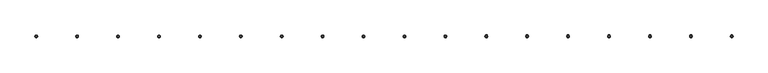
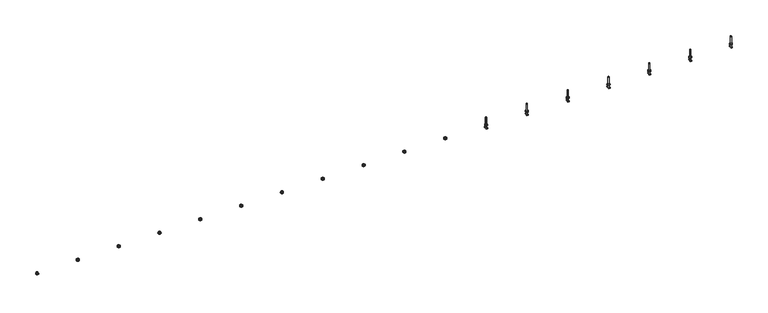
"""IFC4 building model written with IfcOpenShell, lengths in millimetres: fastener geometry, JTA-K JORDAHL® AnchorChannels : JTA-K L=6000 mm."""

from ifc_helpers import new_model, si_unit, point, frame, frame_2d, origin, place, context, project, spatial, polyline, circle_curve, trimmed, segment, composite_curve, outline, extrude, source, transform, mapped, element, save
from ifc_brep_helpers import plane_surface, cylinder_surface, advanced_brep


def fastener_4f74e423(model_context):
    return source(origin(), model_context, "Body", "SolidModel", [
        extrude(outline(polyline([(5617.1052632, 9.2376043), (5625.1052632, 4.6188022), (5625.1052632, -4.6188022), (5617.1052632, -9.2376043), (5609.1052632, -4.6188022), (5609.1052632, 4.6188022), (5617.1052632, 9.2376043)]), holes=[composite_curve([segment(trimmed(circle_curve(frame_2d((5617.1052632, 0.0)), 4.0), [point((5613.1052632, 0.0))], [point((5621.1052632, 0.0))], True, "CARTESIAN"), True, "CONTINUOUS"), segment(trimmed(circle_curve(frame_2d((5617.1052632, 0.0)), 4.0), [point((5621.1052632, 0.0))], [point((5613.1052632, 0.0))], True, "CARTESIAN"), True, "CONTINUOUS")], self_intersect=False)]), frame((0.0, 0.0, 17.0), z_axis=(0.0, 0.0, 1.0), x_axis=(1.0, 0.0, 0.0)), (0.0, 0.0, 1.0), 8.4),
        extrude(outline(composite_curve([segment(trimmed(circle_curve(frame_2d((5617.1052632, 0.0)), 10.0), [point((5607.1052632, 0.0))], [point((5627.1052632, 0.0))], False, "CARTESIAN"), True, "CONTINUOUS"), segment(trimmed(circle_curve(frame_2d((5617.1052632, 0.0)), 10.0), [point((5627.1052632, 0.0))], [point((5607.1052632, 0.0))], False, "CARTESIAN"), True, "CONTINUOUS")], self_intersect=False), holes=[composite_curve([segment(trimmed(circle_curve(frame_2d((5617.1052632, 0.0)), 5.25), [point((5611.8552632, 0.0))], [point((5622.3552632, 0.0))], True, "CARTESIAN"), True, "CONTINUOUS"), segment(trimmed(circle_curve(frame_2d((5617.1052632, 0.0)), 5.25), [point((5622.3552632, 0.0))], [point((5611.8552632, 0.0))], True, "CARTESIAN"), True, "CONTINUOUS")], self_intersect=False)]), frame((0.0, 0.0, 15.0), z_axis=(0.0, 0.0, 1.0), x_axis=(1.0, 0.0, 0.0)), (0.0, 0.0, 1.0), 2.0),
        extrude(outline(polyline([(5309.2105263, 9.2376043), (5317.2105263, 4.6188022), (5317.2105263, -4.6188022), (5309.2105263, -9.2376043), (5301.2105263, -4.6188022), (5301.2105263, 4.6188022), (5309.2105263, 9.2376043)]), holes=[composite_curve([segment(trimmed(circle_curve(frame_2d((5309.2105263, 0.0)), 4.0), [point((5305.2105263, 0.0))], [point((5313.2105263, 0.0))], True, "CARTESIAN"), True, "CONTINUOUS"), segment(trimmed(circle_curve(frame_2d((5309.2105263, 0.0)), 4.0), [point((5313.2105263, 0.0))], [point((5305.2105263, 0.0))], True, "CARTESIAN"), True, "CONTINUOUS")], self_intersect=False)]), frame((0.0, 0.0, 17.0), z_axis=(0.0, 0.0, 1.0), x_axis=(1.0, 0.0, 0.0)), (0.0, 0.0, 1.0), 8.4),
        extrude(outline(composite_curve([segment(trimmed(circle_curve(frame_2d((5309.2105263, 0.0)), 10.0), [point((5299.2105263, 0.0))], [point((5319.2105263, 0.0))], False, "CARTESIAN"), True, "CONTINUOUS"), segment(trimmed(circle_curve(frame_2d((5309.2105263, 0.0)), 10.0), [point((5319.2105263, 0.0))], [point((5299.2105263, 0.0))], False, "CARTESIAN"), True, "CONTINUOUS")], self_intersect=False), holes=[composite_curve([segment(trimmed(circle_curve(frame_2d((5309.2105263, 0.0)), 5.25), [point((5303.9605263, 0.0))], [point((5314.4605263, 0.0))], True, "CARTESIAN"), True, "CONTINUOUS"), segment(trimmed(circle_curve(frame_2d((5309.2105263, 0.0)), 5.25), [point((5314.4605263, 0.0))], [point((5303.9605263, 0.0))], True, "CARTESIAN"), True, "CONTINUOUS")], self_intersect=False)]), frame((0.0, 0.0, 15.0), z_axis=(0.0, 0.0, 1.0), x_axis=(1.0, 0.0, 0.0)), (0.0, 0.0, 1.0), 2.0),
        extrude(outline(polyline([(5001.3157895, 9.2376043), (5009.3157895, 4.6188022), (5009.3157895, -4.6188022), (5001.3157895, -9.2376043), (4993.3157895, -4.6188022), (4993.3157895, 4.6188022), (5001.3157895, 9.2376043)]), holes=[composite_curve([segment(trimmed(circle_curve(frame_2d((5001.3157895, 0.0)), 4.0), [point((4997.3157895, 0.0))], [point((5005.3157895, 0.0))], True, "CARTESIAN"), True, "CONTINUOUS"), segment(trimmed(circle_curve(frame_2d((5001.3157895, 0.0)), 4.0), [point((5005.3157895, 0.0))], [point((4997.3157895, 0.0))], True, "CARTESIAN"), True, "CONTINUOUS")], self_intersect=False)]), frame((0.0, 0.0, 17.0), z_axis=(0.0, 0.0, 1.0), x_axis=(1.0, 0.0, 0.0)), (0.0, 0.0, 1.0), 8.4),
        extrude(outline(composite_curve([segment(trimmed(circle_curve(frame_2d((5001.3157895, 0.0)), 10.0), [point((4991.3157895, 0.0))], [point((5011.3157895, 0.0))], False, "CARTESIAN"), True, "CONTINUOUS"), segment(trimmed(circle_curve(frame_2d((5001.3157895, 0.0)), 10.0), [point((5011.3157895, 0.0))], [point((4991.3157895, 0.0))], False, "CARTESIAN"), True, "CONTINUOUS")], self_intersect=False), holes=[composite_curve([segment(trimmed(circle_curve(frame_2d((5001.3157895, 0.0)), 5.25), [point((4996.0657895, 0.0))], [point((5006.5657895, 0.0))], True, "CARTESIAN"), True, "CONTINUOUS"), segment(trimmed(circle_curve(frame_2d((5001.3157895, 0.0)), 5.25), [point((5006.5657895, 0.0))], [point((4996.0657895, 0.0))], True, "CARTESIAN"), True, "CONTINUOUS")], self_intersect=False)]), frame((0.0, 0.0, 15.0), z_axis=(0.0, 0.0, 1.0), x_axis=(1.0, 0.0, 0.0)), (0.0, 0.0, 1.0), 2.0),
        extrude(outline(polyline([(4693.4210526, 9.2376043), (4701.4210526, 4.6188022), (4701.4210526, -4.6188022), (4693.4210526, -9.2376043), (4685.4210526, -4.6188022), (4685.4210526, 4.6188022), (4693.4210526, 9.2376043)]), holes=[composite_curve([segment(trimmed(circle_curve(frame_2d((4693.4210526, 0.0)), 4.0), [point((4689.4210526, 0.0))], [point((4697.4210526, 0.0))], True, "CARTESIAN"), True, "CONTINUOUS"), segment(trimmed(circle_curve(frame_2d((4693.4210526, 0.0)), 4.0), [point((4697.4210526, 0.0))], [point((4689.4210526, 0.0))], True, "CARTESIAN"), True, "CONTINUOUS")], self_intersect=False)]), frame((0.0, 0.0, 17.0), z_axis=(0.0, 0.0, 1.0), x_axis=(1.0, 0.0, 0.0)), (0.0, 0.0, 1.0), 8.4),
        extrude(outline(composite_curve([segment(trimmed(circle_curve(frame_2d((4693.4210526, 0.0)), 10.0), [point((4683.4210526, 0.0))], [point((4703.4210526, 0.0))], False, "CARTESIAN"), True, "CONTINUOUS"), segment(trimmed(circle_curve(frame_2d((4693.4210526, 0.0)), 10.0), [point((4703.4210526, 0.0))], [point((4683.4210526, 0.0))], False, "CARTESIAN"), True, "CONTINUOUS")], self_intersect=False), holes=[composite_curve([segment(trimmed(circle_curve(frame_2d((4693.4210526, 0.0)), 5.25), [point((4688.1710526, 0.0))], [point((4698.6710526, 0.0))], True, "CARTESIAN"), True, "CONTINUOUS"), segment(trimmed(circle_curve(frame_2d((4693.4210526, 0.0)), 5.25), [point((4698.6710526, 0.0))], [point((4688.1710526, 0.0))], True, "CARTESIAN"), True, "CONTINUOUS")], self_intersect=False)]), frame((0.0, 0.0, 15.0), z_axis=(0.0, 0.0, 1.0), x_axis=(1.0, 0.0, 0.0)), (0.0, 0.0, 1.0), 2.0),
        extrude(outline(polyline([(4385.5263158, 9.2376043), (4393.5263158, 4.6188022), (4393.5263158, -4.6188022), (4385.5263158, -9.2376043), (4377.5263158, -4.6188022), (4377.5263158, 4.6188022), (4385.5263158, 9.2376043)]), holes=[composite_curve([segment(trimmed(circle_curve(frame_2d((4385.5263158, 0.0)), 4.0), [point((4381.5263158, 0.0))], [point((4389.5263158, 0.0))], True, "CARTESIAN"), True, "CONTINUOUS"), segment(trimmed(circle_curve(frame_2d((4385.5263158, 0.0)), 4.0), [point((4389.5263158, 0.0))], [point((4381.5263158, 0.0))], True, "CARTESIAN"), True, "CONTINUOUS")], self_intersect=False)]), frame((0.0, 0.0, 17.0), z_axis=(0.0, 0.0, 1.0), x_axis=(1.0, 0.0, 0.0)), (0.0, 0.0, 1.0), 8.4),
        extrude(outline(composite_curve([segment(trimmed(circle_curve(frame_2d((4385.5263158, 0.0)), 10.0), [point((4375.5263158, 0.0))], [point((4395.5263158, 0.0))], False, "CARTESIAN"), True, "CONTINUOUS"), segment(trimmed(circle_curve(frame_2d((4385.5263158, 0.0)), 10.0), [point((4395.5263158, 0.0))], [point((4375.5263158, 0.0))], False, "CARTESIAN"), True, "CONTINUOUS")], self_intersect=False), holes=[composite_curve([segment(trimmed(circle_curve(frame_2d((4385.5263158, 0.0)), 5.25), [point((4380.2763158, 0.0))], [point((4390.7763158, 0.0))], True, "CARTESIAN"), True, "CONTINUOUS"), segment(trimmed(circle_curve(frame_2d((4385.5263158, 0.0)), 5.25), [point((4390.7763158, 0.0))], [point((4380.2763158, 0.0))], True, "CARTESIAN"), True, "CONTINUOUS")], self_intersect=False)]), frame((0.0, 0.0, 15.0), z_axis=(0.0, 0.0, 1.0), x_axis=(1.0, 0.0, 0.0)), (0.0, 0.0, 1.0), 2.0),
        extrude(outline(polyline([(4077.6315789, 9.2376043), (4085.6315789, 4.6188022), (4085.6315789, -4.6188022), (4077.6315789, -9.2376043), (4069.6315789, -4.6188022), (4069.6315789, 4.6188022), (4077.6315789, 9.2376043)]), holes=[composite_curve([segment(trimmed(circle_curve(frame_2d((4077.6315789, 0.0)), 4.0), [point((4073.6315789, 0.0))], [point((4081.6315789, 0.0))], True, "CARTESIAN"), True, "CONTINUOUS"), segment(trimmed(circle_curve(frame_2d((4077.6315789, 0.0)), 4.0), [point((4081.6315789, 0.0))], [point((4073.6315789, 0.0))], True, "CARTESIAN"), True, "CONTINUOUS")], self_intersect=False)]), frame((0.0, 0.0, 17.0), z_axis=(0.0, 0.0, 1.0), x_axis=(1.0, 0.0, 0.0)), (0.0, 0.0, 1.0), 8.4),
        extrude(outline(composite_curve([segment(trimmed(circle_curve(frame_2d((4077.6315789, 0.0)), 10.0), [point((4067.6315789, 0.0))], [point((4087.6315789, 0.0))], False, "CARTESIAN"), True, "CONTINUOUS"), segment(trimmed(circle_curve(frame_2d((4077.6315789, 0.0)), 10.0), [point((4087.6315789, 0.0))], [point((4067.6315789, 0.0))], False, "CARTESIAN"), True, "CONTINUOUS")], self_intersect=False), holes=[composite_curve([segment(trimmed(circle_curve(frame_2d((4077.6315789, 0.0)), 5.25), [point((4072.3815789, 0.0))], [point((4082.8815789, 0.0))], True, "CARTESIAN"), True, "CONTINUOUS"), segment(trimmed(circle_curve(frame_2d((4077.6315789, 0.0)), 5.25), [point((4082.8815789, 0.0))], [point((4072.3815789, 0.0))], True, "CARTESIAN"), True, "CONTINUOUS")], self_intersect=False)]), frame((0.0, 0.0, 15.0), z_axis=(0.0, 0.0, 1.0), x_axis=(1.0, 0.0, 0.0)), (0.0, 0.0, 1.0), 2.0),
        extrude(outline(polyline([(3769.7368421, 9.2376043), (3777.7368421, 4.6188022), (3777.7368421, -4.6188022), (3769.7368421, -9.2376043), (3761.7368421, -4.6188022), (3761.7368421, 4.6188022), (3769.7368421, 9.2376043)]), holes=[composite_curve([segment(trimmed(circle_curve(frame_2d((3769.7368421, 0.0)), 4.0), [point((3765.7368421, 0.0))], [point((3773.7368421, 0.0))], True, "CARTESIAN"), True, "CONTINUOUS"), segment(trimmed(circle_curve(frame_2d((3769.7368421, 0.0)), 4.0), [point((3773.7368421, 0.0))], [point((3765.7368421, 0.0))], True, "CARTESIAN"), True, "CONTINUOUS")], self_intersect=False)]), frame((0.0, 0.0, 17.0), z_axis=(0.0, 0.0, 1.0), x_axis=(1.0, 0.0, 0.0)), (0.0, 0.0, 1.0), 8.4),
        extrude(outline(composite_curve([segment(trimmed(circle_curve(frame_2d((3769.7368421, 0.0)), 10.0), [point((3759.7368421, 0.0))], [point((3779.7368421, 0.0))], False, "CARTESIAN"), True, "CONTINUOUS"), segment(trimmed(circle_curve(frame_2d((3769.7368421, 0.0)), 10.0), [point((3779.7368421, 0.0))], [point((3759.7368421, 0.0))], False, "CARTESIAN"), True, "CONTINUOUS")], self_intersect=False), holes=[composite_curve([segment(trimmed(circle_curve(frame_2d((3769.7368421, 0.0)), 5.25), [point((3764.4868421, 0.0))], [point((3774.9868421, 0.0))], True, "CARTESIAN"), True, "CONTINUOUS"), segment(trimmed(circle_curve(frame_2d((3769.7368421, 0.0)), 5.25), [point((3774.9868421, 0.0))], [point((3764.4868421, 0.0))], True, "CARTESIAN"), True, "CONTINUOUS")], self_intersect=False)]), frame((0.0, 0.0, 15.0), z_axis=(0.0, 0.0, 1.0), x_axis=(1.0, 0.0, 0.0)), (0.0, 0.0, 1.0), 2.0),
        extrude(outline(polyline([(3461.8421053, 9.2376043), (3469.8421053, 4.6188022), (3469.8421053, -4.6188022), (3461.8421053, -9.2376043), (3453.8421053, -4.6188022), (3453.8421053, 4.6188022), (3461.8421053, 9.2376043)]), holes=[composite_curve([segment(trimmed(circle_curve(frame_2d((3461.8421053, 0.0)), 4.0), [point((3457.8421053, 0.0))], [point((3465.8421053, 0.0))], True, "CARTESIAN"), True, "CONTINUOUS"), segment(trimmed(circle_curve(frame_2d((3461.8421053, 0.0)), 4.0), [point((3465.8421053, 0.0))], [point((3457.8421053, 0.0))], True, "CARTESIAN"), True, "CONTINUOUS")], self_intersect=False)]), frame((0.0, 0.0, 17.0), z_axis=(0.0, 0.0, 1.0), x_axis=(1.0, 0.0, 0.0)), (0.0, 0.0, 1.0), 8.4),
        extrude(outline(composite_curve([segment(trimmed(circle_curve(frame_2d((3461.8421053, 0.0)), 10.0), [point((3451.8421053, 0.0))], [point((3471.8421053, 0.0))], False, "CARTESIAN"), True, "CONTINUOUS"), segment(trimmed(circle_curve(frame_2d((3461.8421053, 0.0)), 10.0), [point((3471.8421053, 0.0))], [point((3451.8421053, 0.0))], False, "CARTESIAN"), True, "CONTINUOUS")], self_intersect=False), holes=[composite_curve([segment(trimmed(circle_curve(frame_2d((3461.8421053, 0.0)), 5.25), [point((3456.5921053, 0.0))], [point((3467.0921053, 0.0))], True, "CARTESIAN"), True, "CONTINUOUS"), segment(trimmed(circle_curve(frame_2d((3461.8421053, 0.0)), 5.25), [point((3467.0921053, 0.0))], [point((3456.5921053, 0.0))], True, "CARTESIAN"), True, "CONTINUOUS")], self_intersect=False)]), frame((0.0, 0.0, 15.0), z_axis=(0.0, 0.0, 1.0), x_axis=(1.0, 0.0, 0.0)), (0.0, 0.0, 1.0), 2.0),
        extrude(outline(polyline([(3153.9473684, 9.2376043), (3161.9473684, 4.6188022), (3161.9473684, -4.6188022), (3153.9473684, -9.2376043), (3145.9473684, -4.6188022), (3145.9473684, 4.6188022), (3153.9473684, 9.2376043)]), holes=[composite_curve([segment(trimmed(circle_curve(frame_2d((3153.9473684, 0.0)), 4.0), [point((3149.9473684, 0.0))], [point((3157.9473684, 0.0))], True, "CARTESIAN"), True, "CONTINUOUS"), segment(trimmed(circle_curve(frame_2d((3153.9473684, 0.0)), 4.0), [point((3157.9473684, 0.0))], [point((3149.9473684, 0.0))], True, "CARTESIAN"), True, "CONTINUOUS")], self_intersect=False)]), frame((0.0, 0.0, 17.0), z_axis=(0.0, 0.0, 1.0), x_axis=(1.0, 0.0, 0.0)), (0.0, 0.0, 1.0), 8.4),
        extrude(outline(composite_curve([segment(trimmed(circle_curve(frame_2d((3153.9473684, 0.0)), 10.0), [point((3143.9473684, 0.0))], [point((3163.9473684, 0.0))], False, "CARTESIAN"), True, "CONTINUOUS"), segment(trimmed(circle_curve(frame_2d((3153.9473684, 0.0)), 10.0), [point((3163.9473684, 0.0))], [point((3143.9473684, 0.0))], False, "CARTESIAN"), True, "CONTINUOUS")], self_intersect=False), holes=[composite_curve([segment(trimmed(circle_curve(frame_2d((3153.9473684, 0.0)), 5.25), [point((3148.6973684, 0.0))], [point((3159.1973684, 0.0))], True, "CARTESIAN"), True, "CONTINUOUS"), segment(trimmed(circle_curve(frame_2d((3153.9473684, 0.0)), 5.25), [point((3159.1973684, 0.0))], [point((3148.6973684, 0.0))], True, "CARTESIAN"), True, "CONTINUOUS")], self_intersect=False)]), frame((0.0, 0.0, 15.0), z_axis=(0.0, 0.0, 1.0), x_axis=(1.0, 0.0, 0.0)), (0.0, 0.0, 1.0), 2.0),
        extrude(outline(polyline([(2846.0526316, 9.2376043), (2854.0526316, 4.6188022), (2854.0526316, -4.6188022), (2846.0526316, -9.2376043), (2838.0526316, -4.6188022), (2838.0526316, 4.6188022), (2846.0526316, 9.2376043)]), holes=[composite_curve([segment(trimmed(circle_curve(frame_2d((2846.0526316, 0.0)), 4.0), [point((2842.0526316, 0.0))], [point((2850.0526316, 0.0))], True, "CARTESIAN"), True, "CONTINUOUS"), segment(trimmed(circle_curve(frame_2d((2846.0526316, 0.0)), 4.0), [point((2850.0526316, 0.0))], [point((2842.0526316, 0.0))], True, "CARTESIAN"), True, "CONTINUOUS")], self_intersect=False)]), frame((0.0, 0.0, 17.0), z_axis=(0.0, 0.0, 1.0), x_axis=(1.0, 0.0, 0.0)), (0.0, 0.0, 1.0), 8.4),
        extrude(outline(composite_curve([segment(trimmed(circle_curve(frame_2d((2846.0526316, 0.0)), 10.0), [point((2836.0526316, 0.0))], [point((2856.0526316, 0.0))], False, "CARTESIAN"), True, "CONTINUOUS"), segment(trimmed(circle_curve(frame_2d((2846.0526316, 0.0)), 10.0), [point((2856.0526316, 0.0))], [point((2836.0526316, 0.0))], False, "CARTESIAN"), True, "CONTINUOUS")], self_intersect=False), holes=[composite_curve([segment(trimmed(circle_curve(frame_2d((2846.0526316, 0.0)), 5.25), [point((2840.8026316, 0.0))], [point((2851.3026316, 0.0))], True, "CARTESIAN"), True, "CONTINUOUS"), segment(trimmed(circle_curve(frame_2d((2846.0526316, 0.0)), 5.25), [point((2851.3026316, 0.0))], [point((2840.8026316, 0.0))], True, "CARTESIAN"), True, "CONTINUOUS")], self_intersect=False)]), frame((0.0, 0.0, 15.0), z_axis=(0.0, 0.0, 1.0), x_axis=(1.0, 0.0, 0.0)), (0.0, 0.0, 1.0), 2.0),
        extrude(outline(polyline([(2538.1578947, 9.2376043), (2546.1578947, 4.6188022), (2546.1578947, -4.6188022), (2538.1578947, -9.2376043), (2530.1578947, -4.6188022), (2530.1578947, 4.6188022), (2538.1578947, 9.2376043)]), holes=[composite_curve([segment(trimmed(circle_curve(frame_2d((2538.1578947, 0.0)), 4.0), [point((2534.1578947, 0.0))], [point((2542.1578947, 0.0))], True, "CARTESIAN"), True, "CONTINUOUS"), segment(trimmed(circle_curve(frame_2d((2538.1578947, 0.0)), 4.0), [point((2542.1578947, 0.0))], [point((2534.1578947, 0.0))], True, "CARTESIAN"), True, "CONTINUOUS")], self_intersect=False)]), frame((0.0, 0.0, 17.0), z_axis=(0.0, 0.0, 1.0), x_axis=(1.0, 0.0, 0.0)), (0.0, 0.0, 1.0), 8.4),
        extrude(outline(composite_curve([segment(trimmed(circle_curve(frame_2d((2538.1578947, 0.0)), 10.0), [point((2528.1578947, 0.0))], [point((2548.1578947, 0.0))], False, "CARTESIAN"), True, "CONTINUOUS"), segment(trimmed(circle_curve(frame_2d((2538.1578947, 0.0)), 10.0), [point((2548.1578947, 0.0))], [point((2528.1578947, 0.0))], False, "CARTESIAN"), True, "CONTINUOUS")], self_intersect=False), holes=[composite_curve([segment(trimmed(circle_curve(frame_2d((2538.1578947, 0.0)), 5.25), [point((2532.9078947, 0.0))], [point((2543.4078947, 0.0))], True, "CARTESIAN"), True, "CONTINUOUS"), segment(trimmed(circle_curve(frame_2d((2538.1578947, 0.0)), 5.25), [point((2543.4078947, 0.0))], [point((2532.9078947, 0.0))], True, "CARTESIAN"), True, "CONTINUOUS")], self_intersect=False)]), frame((0.0, 0.0, 15.0), z_axis=(0.0, 0.0, 1.0), x_axis=(1.0, 0.0, 0.0)), (0.0, 0.0, 1.0), 2.0),
        extrude(outline(polyline([(2230.2631579, 9.2376043), (2238.2631579, 4.6188022), (2238.2631579, -4.6188022), (2230.2631579, -9.2376043), (2222.2631579, -4.6188022), (2222.2631579, 4.6188022), (2230.2631579, 9.2376043)]), holes=[composite_curve([segment(trimmed(circle_curve(frame_2d((2230.2631579, 0.0)), 4.0), [point((2226.2631579, 0.0))], [point((2234.2631579, 0.0))], True, "CARTESIAN"), True, "CONTINUOUS"), segment(trimmed(circle_curve(frame_2d((2230.2631579, 0.0)), 4.0), [point((2234.2631579, 0.0))], [point((2226.2631579, 0.0))], True, "CARTESIAN"), True, "CONTINUOUS")], self_intersect=False)]), frame((0.0, 0.0, 17.0), z_axis=(0.0, 0.0, 1.0), x_axis=(1.0, 0.0, 0.0)), (0.0, 0.0, 1.0), 8.4),
        extrude(outline(composite_curve([segment(trimmed(circle_curve(frame_2d((2230.2631579, 0.0)), 10.0), [point((2220.2631579, 0.0))], [point((2240.2631579, 0.0))], False, "CARTESIAN"), True, "CONTINUOUS"), segment(trimmed(circle_curve(frame_2d((2230.2631579, 0.0)), 10.0), [point((2240.2631579, 0.0))], [point((2220.2631579, 0.0))], False, "CARTESIAN"), True, "CONTINUOUS")], self_intersect=False), holes=[composite_curve([segment(trimmed(circle_curve(frame_2d((2230.2631579, 0.0)), 5.25), [point((2225.0131579, 0.0))], [point((2235.5131579, 0.0))], True, "CARTESIAN"), True, "CONTINUOUS"), segment(trimmed(circle_curve(frame_2d((2230.2631579, 0.0)), 5.25), [point((2235.5131579, 0.0))], [point((2225.0131579, 0.0))], True, "CARTESIAN"), True, "CONTINUOUS")], self_intersect=False)]), frame((0.0, 0.0, 15.0), z_axis=(0.0, 0.0, 1.0), x_axis=(1.0, 0.0, 0.0)), (0.0, 0.0, 1.0), 2.0),
        extrude(outline(polyline([(1922.3684211, 9.2376043), (1930.3684211, 4.6188022), (1930.3684211, -4.6188022), (1922.3684211, -9.2376043), (1914.3684211, -4.6188022), (1914.3684211, 4.6188022), (1922.3684211, 9.2376043)]), holes=[composite_curve([segment(trimmed(circle_curve(frame_2d((1922.3684211, 0.0)), 4.0), [point((1918.3684211, 0.0))], [point((1926.3684211, 0.0))], True, "CARTESIAN"), True, "CONTINUOUS"), segment(trimmed(circle_curve(frame_2d((1922.3684211, 0.0)), 4.0), [point((1926.3684211, 0.0))], [point((1918.3684211, 0.0))], True, "CARTESIAN"), True, "CONTINUOUS")], self_intersect=False)]), frame((0.0, 0.0, 17.0), z_axis=(0.0, 0.0, 1.0), x_axis=(1.0, 0.0, 0.0)), (0.0, 0.0, 1.0), 8.4),
        extrude(outline(composite_curve([segment(trimmed(circle_curve(frame_2d((1922.3684211, 0.0)), 10.0), [point((1912.3684211, 0.0))], [point((1932.3684211, 0.0))], False, "CARTESIAN"), True, "CONTINUOUS"), segment(trimmed(circle_curve(frame_2d((1922.3684211, 0.0)), 10.0), [point((1932.3684211, 0.0))], [point((1912.3684211, 0.0))], False, "CARTESIAN"), True, "CONTINUOUS")], self_intersect=False), holes=[composite_curve([segment(trimmed(circle_curve(frame_2d((1922.3684211, 0.0)), 5.25), [point((1917.1184211, 0.0))], [point((1927.6184211, 0.0))], True, "CARTESIAN"), True, "CONTINUOUS"), segment(trimmed(circle_curve(frame_2d((1922.3684211, 0.0)), 5.25), [point((1927.6184211, 0.0))], [point((1917.1184211, 0.0))], True, "CARTESIAN"), True, "CONTINUOUS")], self_intersect=False)]), frame((0.0, 0.0, 15.0), z_axis=(0.0, 0.0, 1.0), x_axis=(1.0, 0.0, 0.0)), (0.0, 0.0, 1.0), 2.0),
        extrude(outline(polyline([(1614.4736842, 9.2376043), (1622.4736842, 4.6188022), (1622.4736842, -4.6188022), (1614.4736842, -9.2376043), (1606.4736842, -4.6188022), (1606.4736842, 4.6188022), (1614.4736842, 9.2376043)]), holes=[composite_curve([segment(trimmed(circle_curve(frame_2d((1614.4736842, 0.0)), 4.0), [point((1610.4736842, 0.0))], [point((1618.4736842, 0.0))], True, "CARTESIAN"), True, "CONTINUOUS"), segment(trimmed(circle_curve(frame_2d((1614.4736842, 0.0)), 4.0), [point((1618.4736842, 0.0))], [point((1610.4736842, 0.0))], True, "CARTESIAN"), True, "CONTINUOUS")], self_intersect=False)]), frame((0.0, 0.0, 17.0), z_axis=(0.0, 0.0, 1.0), x_axis=(1.0, 0.0, 0.0)), (0.0, 0.0, 1.0), 8.4),
        extrude(outline(composite_curve([segment(trimmed(circle_curve(frame_2d((1614.4736842, 0.0)), 10.0), [point((1604.4736842, 0.0))], [point((1624.4736842, 0.0))], False, "CARTESIAN"), True, "CONTINUOUS"), segment(trimmed(circle_curve(frame_2d((1614.4736842, 0.0)), 10.0), [point((1624.4736842, 0.0))], [point((1604.4736842, 0.0))], False, "CARTESIAN"), True, "CONTINUOUS")], self_intersect=False), holes=[composite_curve([segment(trimmed(circle_curve(frame_2d((1614.4736842, 0.0)), 5.25), [point((1609.2236842, 0.0))], [point((1619.7236842, 0.0))], True, "CARTESIAN"), True, "CONTINUOUS"), segment(trimmed(circle_curve(frame_2d((1614.4736842, 0.0)), 5.25), [point((1619.7236842, 0.0))], [point((1609.2236842, 0.0))], True, "CARTESIAN"), True, "CONTINUOUS")], self_intersect=False)]), frame((0.0, 0.0, 15.0), z_axis=(0.0, 0.0, 1.0), x_axis=(1.0, 0.0, 0.0)), (0.0, 0.0, 1.0), 2.0),
        extrude(outline(polyline([(1306.5789474, 9.2376043), (1314.5789474, 4.6188022), (1314.5789474, -4.6188022), (1306.5789474, -9.2376043), (1298.5789474, -4.6188022), (1298.5789474, 4.6188022), (1306.5789474, 9.2376043)]), holes=[composite_curve([segment(trimmed(circle_curve(frame_2d((1306.5789474, 0.0)), 4.0), [point((1302.5789474, 0.0))], [point((1310.5789474, 0.0))], True, "CARTESIAN"), True, "CONTINUOUS"), segment(trimmed(circle_curve(frame_2d((1306.5789474, 0.0)), 4.0), [point((1310.5789474, 0.0))], [point((1302.5789474, 0.0))], True, "CARTESIAN"), True, "CONTINUOUS")], self_intersect=False)]), frame((0.0, 0.0, 17.0), z_axis=(0.0, 0.0, 1.0), x_axis=(1.0, 0.0, 0.0)), (0.0, 0.0, 1.0), 8.4),
        extrude(outline(composite_curve([segment(trimmed(circle_curve(frame_2d((1306.5789474, 0.0)), 10.0), [point((1296.5789474, 0.0))], [point((1316.5789474, 0.0))], False, "CARTESIAN"), True, "CONTINUOUS"), segment(trimmed(circle_curve(frame_2d((1306.5789474, 0.0)), 10.0), [point((1316.5789474, 0.0))], [point((1296.5789474, 0.0))], False, "CARTESIAN"), True, "CONTINUOUS")], self_intersect=False), holes=[composite_curve([segment(trimmed(circle_curve(frame_2d((1306.5789474, 0.0)), 5.25), [point((1301.3289474, 0.0))], [point((1311.8289474, 0.0))], True, "CARTESIAN"), True, "CONTINUOUS"), segment(trimmed(circle_curve(frame_2d((1306.5789474, 0.0)), 5.25), [point((1311.8289474, 0.0))], [point((1301.3289474, 0.0))], True, "CARTESIAN"), True, "CONTINUOUS")], self_intersect=False)]), frame((0.0, 0.0, 15.0), z_axis=(0.0, 0.0, 1.0), x_axis=(1.0, 0.0, 0.0)), (0.0, 0.0, 1.0), 2.0),
        extrude(outline(polyline([(998.6842105, 9.2376043), (1006.6842105, 4.6188022), (1006.6842105, -4.6188022), (998.6842105, -9.2376043), (990.6842105, -4.6188022), (990.6842105, 4.6188022), (998.6842105, 9.2376043)]), holes=[composite_curve([segment(trimmed(circle_curve(frame_2d((998.6842105, 0.0)), 4.0), [point((994.6842105, 0.0))], [point((1002.6842105, 0.0))], True, "CARTESIAN"), True, "CONTINUOUS"), segment(trimmed(circle_curve(frame_2d((998.6842105, 0.0)), 4.0), [point((1002.6842105, 0.0))], [point((994.6842105, 0.0))], True, "CARTESIAN"), True, "CONTINUOUS")], self_intersect=False)]), frame((0.0, 0.0, 17.0), z_axis=(0.0, 0.0, 1.0), x_axis=(1.0, 0.0, 0.0)), (0.0, 0.0, 1.0), 8.4),
        extrude(outline(composite_curve([segment(trimmed(circle_curve(frame_2d((998.6842105, 0.0)), 10.0), [point((988.6842105, 0.0))], [point((1008.6842105, 0.0))], False, "CARTESIAN"), True, "CONTINUOUS"), segment(trimmed(circle_curve(frame_2d((998.6842105, 0.0)), 10.0), [point((1008.6842105, 0.0))], [point((988.6842105, 0.0))], False, "CARTESIAN"), True, "CONTINUOUS")], self_intersect=False), holes=[composite_curve([segment(trimmed(circle_curve(frame_2d((998.6842105, 0.0)), 5.25), [point((993.4342105, 0.0))], [point((1003.9342105, 0.0))], True, "CARTESIAN"), True, "CONTINUOUS"), segment(trimmed(circle_curve(frame_2d((998.6842105, 0.0)), 5.25), [point((1003.9342105, 0.0))], [point((993.4342105, 0.0))], True, "CARTESIAN"), True, "CONTINUOUS")], self_intersect=False)]), frame((0.0, 0.0, 15.0), z_axis=(0.0, 0.0, 1.0), x_axis=(1.0, 0.0, 0.0)), (0.0, 0.0, 1.0), 2.0),
        extrude(outline(polyline([(690.7894737, 9.2376043), (698.7894737, 4.6188022), (698.7894737, -4.6188022), (690.7894737, -9.2376043), (682.7894737, -4.6188022), (682.7894737, 4.6188022), (690.7894737, 9.2376043)]), holes=[composite_curve([segment(trimmed(circle_curve(frame_2d((690.7894737, 0.0)), 4.0), [point((686.7894737, 0.0))], [point((694.7894737, 0.0))], True, "CARTESIAN"), True, "CONTINUOUS"), segment(trimmed(circle_curve(frame_2d((690.7894737, 0.0)), 4.0), [point((694.7894737, 0.0))], [point((686.7894737, 0.0))], True, "CARTESIAN"), True, "CONTINUOUS")], self_intersect=False)]), frame((0.0, 0.0, 17.0), z_axis=(0.0, 0.0, 1.0), x_axis=(1.0, 0.0, 0.0)), (0.0, 0.0, 1.0), 8.4),
        extrude(outline(composite_curve([segment(trimmed(circle_curve(frame_2d((690.7894737, 0.0)), 10.0), [point((680.7894737, 0.0))], [point((700.7894737, 0.0))], False, "CARTESIAN"), True, "CONTINUOUS"), segment(trimmed(circle_curve(frame_2d((690.7894737, 0.0)), 10.0), [point((700.7894737, 0.0))], [point((680.7894737, 0.0))], False, "CARTESIAN"), True, "CONTINUOUS")], self_intersect=False), holes=[composite_curve([segment(trimmed(circle_curve(frame_2d((690.7894737, 0.0)), 5.25), [point((685.5394737, 0.0))], [point((696.0394737, 0.0))], True, "CARTESIAN"), True, "CONTINUOUS"), segment(trimmed(circle_curve(frame_2d((690.7894737, 0.0)), 5.25), [point((696.0394737, 0.0))], [point((685.5394737, 0.0))], True, "CARTESIAN"), True, "CONTINUOUS")], self_intersect=False)]), frame((0.0, 0.0, 15.0), z_axis=(0.0, 0.0, 1.0), x_axis=(1.0, 0.0, 0.0)), (0.0, 0.0, 1.0), 2.0),
        extrude(outline(polyline([(382.8947368, 9.2376043), (390.8947368, 4.6188022), (390.8947368, -4.6188022), (382.8947368, -9.2376043), (374.8947368, -4.6188022), (374.8947368, 4.6188022), (382.8947368, 9.2376043)]), holes=[composite_curve([segment(trimmed(circle_curve(frame_2d((382.8947368, 0.0)), 4.0), [point((378.8947368, 0.0))], [point((386.8947368, 0.0))], True, "CARTESIAN"), True, "CONTINUOUS"), segment(trimmed(circle_curve(frame_2d((382.8947368, 0.0)), 4.0), [point((386.8947368, 0.0))], [point((378.8947368, 0.0))], True, "CARTESIAN"), True, "CONTINUOUS")], self_intersect=False)]), frame((0.0, 0.0, 17.0), z_axis=(0.0, 0.0, 1.0), x_axis=(1.0, 0.0, 0.0)), (0.0, 0.0, 1.0), 8.4),
        extrude(outline(composite_curve([segment(trimmed(circle_curve(frame_2d((382.8947368, 0.0)), 10.0), [point((372.8947368, 0.0))], [point((392.8947368, 0.0))], False, "CARTESIAN"), True, "CONTINUOUS"), segment(trimmed(circle_curve(frame_2d((382.8947368, 0.0)), 10.0), [point((392.8947368, 0.0))], [point((372.8947368, 0.0))], False, "CARTESIAN"), True, "CONTINUOUS")], self_intersect=False), holes=[composite_curve([segment(trimmed(circle_curve(frame_2d((382.8947368, 0.0)), 5.25), [point((377.6447368, 0.0))], [point((388.1447368, 0.0))], True, "CARTESIAN"), True, "CONTINUOUS"), segment(trimmed(circle_curve(frame_2d((382.8947368, 0.0)), 5.25), [point((388.1447368, 0.0))], [point((377.6447368, 0.0))], True, "CARTESIAN"), True, "CONTINUOUS")], self_intersect=False)]), frame((0.0, 0.0, 15.0), z_axis=(0.0, 0.0, 1.0), x_axis=(1.0, 0.0, 0.0)), (0.0, 0.0, 1.0), 2.0),
        advanced_brep(
        [(5622.6052632, 11.0, -2.3), (5622.6052632, -11.0, -2.3), (5622.6052632, -11.0, -8.3), (5622.6052632, 11.0, -8.3), (5611.6052632, 11.0, -2.3), (5611.6052632, 11.0, -8.3), (5611.6052632, -11.0, -8.3), (5611.6052632, -11.0, -2.3), (5621.1052632, 0.0, -2.3), (5613.1052632, 0.0, -2.3), (5613.1052632, 0.0, 77.7), (5621.1052632, 0.0, 77.7)],
        [
            (0, 1),
            (1, 2),
            (2, 3),
            (3, 0),
            (4, 5),
            (5, 6),
            (6, 7),
            (7, 4),
            (0, 4),
            (7, 1),
            (8, 9, circle_curve(frame((5617.1052632, 0.0, -2.3), z_axis=(0.0, 0.0, -1.0), x_axis=(1.0, 0.0, 0.0)), 4.0)),
            (9, 8, circle_curve(frame((5617.1052632, 0.0, -2.3), z_axis=(0.0, 0.0, -1.0), x_axis=(1.0, 0.0, 0.0)), 4.0)),
            (6, 2),
            (5, 3),
            (10, 11, circle_curve(frame((5617.1052632, 0.0, 77.7), z_axis=(0.0, 0.0, 1.0), x_axis=(1.0, 0.0, 0.0)), 4.0)),
            (11, 10, circle_curve(frame((5617.1052632, 0.0, 77.7), z_axis=(0.0, 0.0, 1.0), x_axis=(1.0, 0.0, 0.0)), 4.0)),
            (10, 9),
            (8, 11),
        ],
        [
            plane_surface(frame((5622.6052632, -11.0, -2.3), z_axis=(1.0, 0.0, 0.0), x_axis=(0.0, -1.0, 0.0))),
            plane_surface(frame((5611.6052632, -11.0, -2.3), z_axis=(-1.0, 0.0, 0.0), x_axis=(0.0, 1.0, 0.0))),
            plane_surface(frame((5622.6052632, 11.0, -2.3), z_axis=(0.0, 0.0, 1.0), x_axis=(-1.0, 0.0, 0.0))),
            plane_surface(frame((5622.6052632, -11.0, -2.3), z_axis=(0.0, -1.0, 0.0), x_axis=(-1.0, 0.0, 0.0))),
            plane_surface(frame((5622.6052632, -11.0, -8.3), z_axis=(0.0, 0.0, -1.0), x_axis=(-1.0, 0.0, 0.0))),
            plane_surface(frame((5622.6052632, 11.0, -8.3), z_axis=(0.0, 1.0, 0.0), x_axis=(-1.0, 0.0, 0.0))),
            plane_surface(frame((5621.1052632, 0.0, 77.7), z_axis=(0.0, 0.0, 1.0), x_axis=(0.0, 1.0, 0.0))),
            cylinder_surface(frame((5617.1052632, 0.0, -2.3), z_axis=(0.0, 0.0, 1.0), x_axis=(1.0, 0.0, 0.0)), 4.0),
        ],
        [
            (0, [[1, 2, 3, 4]]),
            (1, [[5, 6, 7, 8]]),
            (2, [[-1, 9, -8, 10], [11, 12]]),
            (3, [[-2, -10, -7, 13]]),
            (4, [[-3, -13, -6, 14]]),
            (5, [[-4, -14, -5, -9]]),
            (6, [[15, 16]]),
            (7, [[-15, 17, -11, 18]]),
            (7, [[-16, -18, -12, -17]]),
        ],
    ),
        advanced_brep(
        [(5314.7105263, 11.0, -2.3), (5314.7105263, -11.0, -2.3), (5314.7105263, -11.0, -8.3), (5314.7105263, 11.0, -8.3), (5303.7105263, 11.0, -2.3), (5303.7105263, 11.0, -8.3), (5303.7105263, -11.0, -8.3), (5303.7105263, -11.0, -2.3), (5313.2105263, 0.0, -2.3), (5305.2105263, 0.0, -2.3), (5305.2105263, 0.0, 77.7), (5313.2105263, 0.0, 77.7)],
        [
            (0, 1),
            (1, 2),
            (2, 3),
            (3, 0),
            (4, 5),
            (5, 6),
            (6, 7),
            (7, 4),
            (0, 4),
            (7, 1),
            (8, 9, circle_curve(frame((5309.2105263, 0.0, -2.3), z_axis=(0.0, 0.0, -1.0), x_axis=(1.0, 0.0, 0.0)), 4.0)),
            (9, 8, circle_curve(frame((5309.2105263, 0.0, -2.3), z_axis=(0.0, 0.0, -1.0), x_axis=(1.0, 0.0, 0.0)), 4.0)),
            (6, 2),
            (5, 3),
            (10, 11, circle_curve(frame((5309.2105263, 0.0, 77.7), z_axis=(0.0, 0.0, 1.0), x_axis=(1.0, 0.0, 0.0)), 4.0)),
            (11, 10, circle_curve(frame((5309.2105263, 0.0, 77.7), z_axis=(0.0, 0.0, 1.0), x_axis=(1.0, 0.0, 0.0)), 4.0)),
            (10, 9),
            (8, 11),
        ],
        [
            plane_surface(frame((5314.7105263, -11.0, -2.3), z_axis=(1.0, 0.0, 0.0), x_axis=(0.0, -1.0, 0.0))),
            plane_surface(frame((5303.7105263, -11.0, -2.3), z_axis=(-1.0, 0.0, 0.0), x_axis=(0.0, 1.0, 0.0))),
            plane_surface(frame((5314.7105263, 11.0, -2.3), z_axis=(0.0, 0.0, 1.0), x_axis=(-1.0, 0.0, 0.0))),
            plane_surface(frame((5314.7105263, -11.0, -2.3), z_axis=(0.0, -1.0, 0.0), x_axis=(-1.0, 0.0, 0.0))),
            plane_surface(frame((5314.7105263, -11.0, -8.3), z_axis=(0.0, 0.0, -1.0), x_axis=(-1.0, 0.0, 0.0))),
            plane_surface(frame((5314.7105263, 11.0, -8.3), z_axis=(0.0, 1.0, 0.0), x_axis=(-1.0, 0.0, 0.0))),
            plane_surface(frame((5313.2105263, 0.0, 77.7), z_axis=(0.0, 0.0, 1.0), x_axis=(0.0, 1.0, 0.0))),
            cylinder_surface(frame((5309.2105263, 0.0, -2.3), z_axis=(0.0, 0.0, 1.0), x_axis=(1.0, 0.0, 0.0)), 4.0),
        ],
        [
            (0, [[1, 2, 3, 4]]),
            (1, [[5, 6, 7, 8]]),
            (2, [[-1, 9, -8, 10], [11, 12]]),
            (3, [[-2, -10, -7, 13]]),
            (4, [[-3, -13, -6, 14]]),
            (5, [[-4, -14, -5, -9]]),
            (6, [[15, 16]]),
            (7, [[-15, 17, -11, 18]]),
            (7, [[-16, -18, -12, -17]]),
        ],
    ),
        advanced_brep(
        [(5006.8157895, 11.0, -2.3), (5006.8157895, -11.0, -2.3), (5006.8157895, -11.0, -8.3), (5006.8157895, 11.0, -8.3), (4995.8157895, 11.0, -2.3), (4995.8157895, 11.0, -8.3), (4995.8157895, -11.0, -8.3), (4995.8157895, -11.0, -2.3), (5005.3157895, 0.0, -2.3), (4997.3157895, 0.0, -2.3), (4997.3157895, 0.0, 77.7), (5005.3157895, 0.0, 77.7)],
        [
            (0, 1),
            (1, 2),
            (2, 3),
            (3, 0),
            (4, 5),
            (5, 6),
            (6, 7),
            (7, 4),
            (0, 4),
            (7, 1),
            (8, 9, circle_curve(frame((5001.3157895, 0.0, -2.3), z_axis=(0.0, 0.0, -1.0), x_axis=(1.0, 0.0, 0.0)), 4.0)),
            (9, 8, circle_curve(frame((5001.3157895, 0.0, -2.3), z_axis=(0.0, 0.0, -1.0), x_axis=(1.0, 0.0, 0.0)), 4.0)),
            (6, 2),
            (5, 3),
            (10, 11, circle_curve(frame((5001.3157895, 0.0, 77.7), z_axis=(0.0, 0.0, 1.0), x_axis=(1.0, 0.0, 0.0)), 4.0)),
            (11, 10, circle_curve(frame((5001.3157895, 0.0, 77.7), z_axis=(0.0, 0.0, 1.0), x_axis=(1.0, 0.0, 0.0)), 4.0)),
            (10, 9),
            (8, 11),
        ],
        [
            plane_surface(frame((5006.8157895, -11.0, -2.3), z_axis=(1.0, 0.0, 0.0), x_axis=(0.0, -1.0, 0.0))),
            plane_surface(frame((4995.8157895, -11.0, -2.3), z_axis=(-1.0, 0.0, 0.0), x_axis=(0.0, 1.0, 0.0))),
            plane_surface(frame((5006.8157895, 11.0, -2.3), z_axis=(0.0, 0.0, 1.0), x_axis=(-1.0, 0.0, 0.0))),
            plane_surface(frame((5006.8157895, -11.0, -2.3), z_axis=(0.0, -1.0, 0.0), x_axis=(-1.0, 0.0, 0.0))),
            plane_surface(frame((5006.8157895, -11.0, -8.3), z_axis=(0.0, 0.0, -1.0), x_axis=(-1.0, 0.0, 0.0))),
            plane_surface(frame((5006.8157895, 11.0, -8.3), z_axis=(0.0, 1.0, 0.0), x_axis=(-1.0, 0.0, 0.0))),
            plane_surface(frame((5005.3157895, 0.0, 77.7), z_axis=(0.0, 0.0, 1.0), x_axis=(0.0, 1.0, 0.0))),
            cylinder_surface(frame((5001.3157895, 0.0, -2.3), z_axis=(0.0, 0.0, 1.0), x_axis=(1.0, 0.0, 0.0)), 4.0),
        ],
        [
            (0, [[1, 2, 3, 4]]),
            (1, [[5, 6, 7, 8]]),
            (2, [[-1, 9, -8, 10], [11, 12]]),
            (3, [[-2, -10, -7, 13]]),
            (4, [[-3, -13, -6, 14]]),
            (5, [[-4, -14, -5, -9]]),
            (6, [[15, 16]]),
            (7, [[-15, 17, -11, 18]]),
            (7, [[-16, -18, -12, -17]]),
        ],
    ),
        advanced_brep(
        [(4698.9210526, 11.0, -2.3), (4698.9210526, -11.0, -2.3), (4698.9210526, -11.0, -8.3), (4698.9210526, 11.0, -8.3), (4687.9210526, 11.0, -2.3), (4687.9210526, 11.0, -8.3), (4687.9210526, -11.0, -8.3), (4687.9210526, -11.0, -2.3), (4697.4210526, 0.0, -2.3), (4689.4210526, 0.0, -2.3), (4689.4210526, 0.0, 77.7), (4697.4210526, 0.0, 77.7)],
        [
            (0, 1),
            (1, 2),
            (2, 3),
            (3, 0),
            (4, 5),
            (5, 6),
            (6, 7),
            (7, 4),
            (0, 4),
            (7, 1),
            (8, 9, circle_curve(frame((4693.4210526, 0.0, -2.3), z_axis=(0.0, 0.0, -1.0), x_axis=(1.0, 0.0, 0.0)), 4.0)),
            (9, 8, circle_curve(frame((4693.4210526, 0.0, -2.3), z_axis=(0.0, 0.0, -1.0), x_axis=(1.0, 0.0, 0.0)), 4.0)),
            (6, 2),
            (5, 3),
            (10, 11, circle_curve(frame((4693.4210526, 0.0, 77.7), z_axis=(0.0, 0.0, 1.0), x_axis=(1.0, 0.0, 0.0)), 4.0)),
            (11, 10, circle_curve(frame((4693.4210526, 0.0, 77.7), z_axis=(0.0, 0.0, 1.0), x_axis=(1.0, 0.0, 0.0)), 4.0)),
            (10, 9),
            (8, 11),
        ],
        [
            plane_surface(frame((4698.9210526, -11.0, -2.3), z_axis=(1.0, 0.0, 0.0), x_axis=(0.0, -1.0, 0.0))),
            plane_surface(frame((4687.9210526, -11.0, -2.3), z_axis=(-1.0, 0.0, 0.0), x_axis=(0.0, 1.0, 0.0))),
            plane_surface(frame((4698.9210526, 11.0, -2.3), z_axis=(0.0, 0.0, 1.0), x_axis=(-1.0, 0.0, 0.0))),
            plane_surface(frame((4698.9210526, -11.0, -2.3), z_axis=(0.0, -1.0, 0.0), x_axis=(-1.0, 0.0, 0.0))),
            plane_surface(frame((4698.9210526, -11.0, -8.3), z_axis=(0.0, 0.0, -1.0), x_axis=(-1.0, 0.0, 0.0))),
            plane_surface(frame((4698.9210526, 11.0, -8.3), z_axis=(0.0, 1.0, 0.0), x_axis=(-1.0, 0.0, 0.0))),
            plane_surface(frame((4697.4210526, 0.0, 77.7), z_axis=(0.0, 0.0, 1.0), x_axis=(0.0, 1.0, 0.0))),
            cylinder_surface(frame((4693.4210526, 0.0, -2.3), z_axis=(0.0, 0.0, 1.0), x_axis=(1.0, 0.0, 0.0)), 4.0),
        ],
        [
            (0, [[1, 2, 3, 4]]),
            (1, [[5, 6, 7, 8]]),
            (2, [[-1, 9, -8, 10], [11, 12]]),
            (3, [[-2, -10, -7, 13]]),
            (4, [[-3, -13, -6, 14]]),
            (5, [[-4, -14, -5, -9]]),
            (6, [[15, 16]]),
            (7, [[-15, 17, -11, 18]]),
            (7, [[-16, -18, -12, -17]]),
        ],
    ),
        advanced_brep(
        [(4391.0263158, 11.0, -2.3), (4391.0263158, -11.0, -2.3), (4391.0263158, -11.0, -8.3), (4391.0263158, 11.0, -8.3), (4380.0263158, 11.0, -2.3), (4380.0263158, 11.0, -8.3), (4380.0263158, -11.0, -8.3), (4380.0263158, -11.0, -2.3), (4389.5263158, 0.0, -2.3), (4381.5263158, 0.0, -2.3), (4381.5263158, 0.0, 77.7), (4389.5263158, 0.0, 77.7)],
        [
            (0, 1),
            (1, 2),
            (2, 3),
            (3, 0),
            (4, 5),
            (5, 6),
            (6, 7),
            (7, 4),
            (0, 4),
            (7, 1),
            (8, 9, circle_curve(frame((4385.5263158, 0.0, -2.3), z_axis=(0.0, 0.0, -1.0), x_axis=(1.0, 0.0, 0.0)), 4.0)),
            (9, 8, circle_curve(frame((4385.5263158, 0.0, -2.3), z_axis=(0.0, 0.0, -1.0), x_axis=(1.0, 0.0, 0.0)), 4.0)),
            (6, 2),
            (5, 3),
            (10, 11, circle_curve(frame((4385.5263158, 0.0, 77.7), z_axis=(0.0, 0.0, 1.0), x_axis=(1.0, 0.0, 0.0)), 4.0)),
            (11, 10, circle_curve(frame((4385.5263158, 0.0, 77.7), z_axis=(0.0, 0.0, 1.0), x_axis=(1.0, 0.0, 0.0)), 4.0)),
            (10, 9),
            (8, 11),
        ],
        [
            plane_surface(frame((4391.0263158, -11.0, -2.3), z_axis=(1.0, 0.0, 0.0), x_axis=(0.0, -1.0, 0.0))),
            plane_surface(frame((4380.0263158, -11.0, -2.3), z_axis=(-1.0, 0.0, 0.0), x_axis=(0.0, 1.0, 0.0))),
            plane_surface(frame((4391.0263158, 11.0, -2.3), z_axis=(0.0, 0.0, 1.0), x_axis=(-1.0, 0.0, 0.0))),
            plane_surface(frame((4391.0263158, -11.0, -2.3), z_axis=(0.0, -1.0, 0.0), x_axis=(-1.0, 0.0, 0.0))),
            plane_surface(frame((4391.0263158, -11.0, -8.3), z_axis=(0.0, 0.0, -1.0), x_axis=(-1.0, 0.0, 0.0))),
            plane_surface(frame((4391.0263158, 11.0, -8.3), z_axis=(0.0, 1.0, 0.0), x_axis=(-1.0, 0.0, 0.0))),
            plane_surface(frame((4389.5263158, 0.0, 77.7), z_axis=(0.0, 0.0, 1.0), x_axis=(0.0, 1.0, 0.0))),
            cylinder_surface(frame((4385.5263158, 0.0, -2.3), z_axis=(0.0, 0.0, 1.0), x_axis=(1.0, 0.0, 0.0)), 4.0),
        ],
        [
            (0, [[1, 2, 3, 4]]),
            (1, [[5, 6, 7, 8]]),
            (2, [[-1, 9, -8, 10], [11, 12]]),
            (3, [[-2, -10, -7, 13]]),
            (4, [[-3, -13, -6, 14]]),
            (5, [[-4, -14, -5, -9]]),
            (6, [[15, 16]]),
            (7, [[-15, 17, -11, 18]]),
            (7, [[-16, -18, -12, -17]]),
        ],
    ),
        advanced_brep(
        [(4083.1315789, 11.0, -2.3), (4083.1315789, -11.0, -2.3), (4083.1315789, -11.0, -8.3), (4083.1315789, 11.0, -8.3), (4072.1315789, 11.0, -2.3), (4072.1315789, 11.0, -8.3), (4072.1315789, -11.0, -8.3), (4072.1315789, -11.0, -2.3), (4081.6315789, 0.0, -2.3), (4073.6315789, 0.0, -2.3), (4073.6315789, 0.0, 77.7), (4081.6315789, 0.0, 77.7)],
        [
            (0, 1),
            (1, 2),
            (2, 3),
            (3, 0),
            (4, 5),
            (5, 6),
            (6, 7),
            (7, 4),
            (0, 4),
            (7, 1),
            (8, 9, circle_curve(frame((4077.6315789, 0.0, -2.3), z_axis=(0.0, 0.0, -1.0), x_axis=(1.0, 0.0, 0.0)), 4.0)),
            (9, 8, circle_curve(frame((4077.6315789, 0.0, -2.3), z_axis=(0.0, 0.0, -1.0), x_axis=(1.0, 0.0, 0.0)), 4.0)),
            (6, 2),
            (5, 3),
            (10, 11, circle_curve(frame((4077.6315789, 0.0, 77.7), z_axis=(0.0, 0.0, 1.0), x_axis=(1.0, 0.0, 0.0)), 4.0)),
            (11, 10, circle_curve(frame((4077.6315789, 0.0, 77.7), z_axis=(0.0, 0.0, 1.0), x_axis=(1.0, 0.0, 0.0)), 4.0)),
            (10, 9),
            (8, 11),
        ],
        [
            plane_surface(frame((4083.1315789, -11.0, -2.3), z_axis=(1.0, 0.0, 0.0), x_axis=(0.0, -1.0, 0.0))),
            plane_surface(frame((4072.1315789, -11.0, -2.3), z_axis=(-1.0, 0.0, 0.0), x_axis=(0.0, 1.0, 0.0))),
            plane_surface(frame((4083.1315789, 11.0, -2.3), z_axis=(0.0, 0.0, 1.0), x_axis=(-1.0, 0.0, 0.0))),
            plane_surface(frame((4083.1315789, -11.0, -2.3), z_axis=(0.0, -1.0, 0.0), x_axis=(-1.0, 0.0, 0.0))),
            plane_surface(frame((4083.1315789, -11.0, -8.3), z_axis=(0.0, 0.0, -1.0), x_axis=(-1.0, 0.0, 0.0))),
            plane_surface(frame((4083.1315789, 11.0, -8.3), z_axis=(0.0, 1.0, 0.0), x_axis=(-1.0, 0.0, 0.0))),
            plane_surface(frame((4081.6315789, 0.0, 77.7), z_axis=(0.0, 0.0, 1.0), x_axis=(0.0, 1.0, 0.0))),
            cylinder_surface(frame((4077.6315789, 0.0, -2.3), z_axis=(0.0, 0.0, 1.0), x_axis=(1.0, 0.0, 0.0)), 4.0),
        ],
        [
            (0, [[1, 2, 3, 4]]),
            (1, [[5, 6, 7, 8]]),
            (2, [[-1, 9, -8, 10], [11, 12]]),
            (3, [[-2, -10, -7, 13]]),
            (4, [[-3, -13, -6, 14]]),
            (5, [[-4, -14, -5, -9]]),
            (6, [[15, 16]]),
            (7, [[-15, 17, -11, 18]]),
            (7, [[-16, -18, -12, -17]]),
        ],
    ),
        advanced_brep(
        [(3775.2368421, 11.0, -2.3), (3775.2368421, -11.0, -2.3), (3775.2368421, -11.0, -8.3), (3775.2368421, 11.0, -8.3), (3764.2368421, 11.0, -2.3), (3764.2368421, 11.0, -8.3), (3764.2368421, -11.0, -8.3), (3764.2368421, -11.0, -2.3), (3773.7368421, 0.0, -2.3), (3765.7368421, 0.0, -2.3), (3765.7368421, 0.0, 77.7), (3773.7368421, 0.0, 77.7)],
        [
            (0, 1),
            (1, 2),
            (2, 3),
            (3, 0),
            (4, 5),
            (5, 6),
            (6, 7),
            (7, 4),
            (0, 4),
            (7, 1),
            (8, 9, circle_curve(frame((3769.7368421, 0.0, -2.3), z_axis=(0.0, 0.0, -1.0), x_axis=(1.0, 0.0, 0.0)), 4.0)),
            (9, 8, circle_curve(frame((3769.7368421, 0.0, -2.3), z_axis=(0.0, 0.0, -1.0), x_axis=(1.0, 0.0, 0.0)), 4.0)),
            (6, 2),
            (5, 3),
            (10, 11, circle_curve(frame((3769.7368421, 0.0, 77.7), z_axis=(0.0, 0.0, 1.0), x_axis=(1.0, 0.0, 0.0)), 4.0)),
            (11, 10, circle_curve(frame((3769.7368421, 0.0, 77.7), z_axis=(0.0, 0.0, 1.0), x_axis=(1.0, 0.0, 0.0)), 4.0)),
            (10, 9),
            (8, 11),
        ],
        [
            plane_surface(frame((3775.2368421, -11.0, -2.3), z_axis=(1.0, 0.0, 0.0), x_axis=(0.0, -1.0, 0.0))),
            plane_surface(frame((3764.2368421, -11.0, -2.3), z_axis=(-1.0, 0.0, 0.0), x_axis=(0.0, 1.0, 0.0))),
            plane_surface(frame((3775.2368421, 11.0, -2.3), z_axis=(0.0, 0.0, 1.0), x_axis=(-1.0, 0.0, 0.0))),
            plane_surface(frame((3775.2368421, -11.0, -2.3), z_axis=(0.0, -1.0, 0.0), x_axis=(-1.0, 0.0, 0.0))),
            plane_surface(frame((3775.2368421, -11.0, -8.3), z_axis=(0.0, 0.0, -1.0), x_axis=(-1.0, 0.0, 0.0))),
            plane_surface(frame((3775.2368421, 11.0, -8.3), z_axis=(0.0, 1.0, 0.0), x_axis=(-1.0, 0.0, 0.0))),
            plane_surface(frame((3773.7368421, 0.0, 77.7), z_axis=(0.0, 0.0, 1.0), x_axis=(0.0, 1.0, 0.0))),
            cylinder_surface(frame((3769.7368421, 0.0, -2.3), z_axis=(0.0, 0.0, 1.0), x_axis=(1.0, 0.0, 0.0)), 4.0),
        ],
        [
            (0, [[1, 2, 3, 4]]),
            (1, [[5, 6, 7, 8]]),
            (2, [[-1, 9, -8, 10], [11, 12]]),
            (3, [[-2, -10, -7, 13]]),
            (4, [[-3, -13, -6, 14]]),
            (5, [[-4, -14, -5, -9]]),
            (6, [[15, 16]]),
            (7, [[-15, 17, -11, 18]]),
            (7, [[-16, -18, -12, -17]]),
        ],
    ),
    ])


if __name__ == "__main__":
    model = new_model("IFC4")
    model_context = context("Model", 3, world=origin())
    ifc_project = project(units=[si_unit("LENGTHUNIT", "METRE", prefix="MILLI")], contexts=[model_context])
    site = spatial("IfcSite", under=ifc_project)
    building = spatial("IfcBuilding", under=site)
    placement = place(None, origin())
    fastener_shape = fastener_4f74e423(model_context)
    element("IfcFastener", 1, ObjectType="JTA-K JORDAHL® AnchorChannels : JTA-K L=6000 mm", at=placement, inside=building, context=model_context, shape_type="MappedRepresentation", body=[
        mapped(fastener_shape, transform((0.0, 0.0, 0.0), x_axis=(1.0, 0.0, 0.0), y_axis=(0.0, 1.0, 0.0), z_axis=(0.0, 0.0, 1.0))),
    ])
    save(model, "model.ifc")
